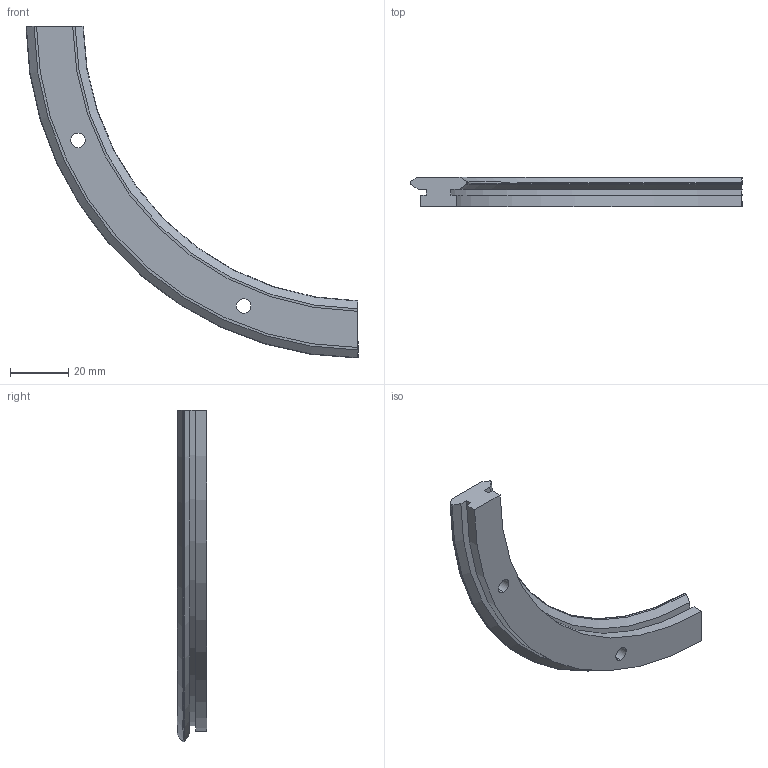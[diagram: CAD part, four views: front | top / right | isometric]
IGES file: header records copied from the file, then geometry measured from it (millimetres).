
Start section: 3D InterOp IGES (v. 2020 1.0.1), Spatial Corp. Copyright (c) 1999-2017.
Global section: file name: r20_210_r90.igs; native system: Spatial Corp.; preprocessor: 3D InterOp ACIS/IGES; author: TraceParts; organization: TraceParts S.A.; date: 20220624.024835; units: millimetre
Bounding box: 113.81 x 10 x 113.81 mm (x, y, z)
Surface area: 10685.2 mm2 (no closed solid volume)
Topology: 0 solids, 0 shells, 30 faces, 156 edges, 156 vertices
Faces by surface type: revolution 20, extrusion 10
